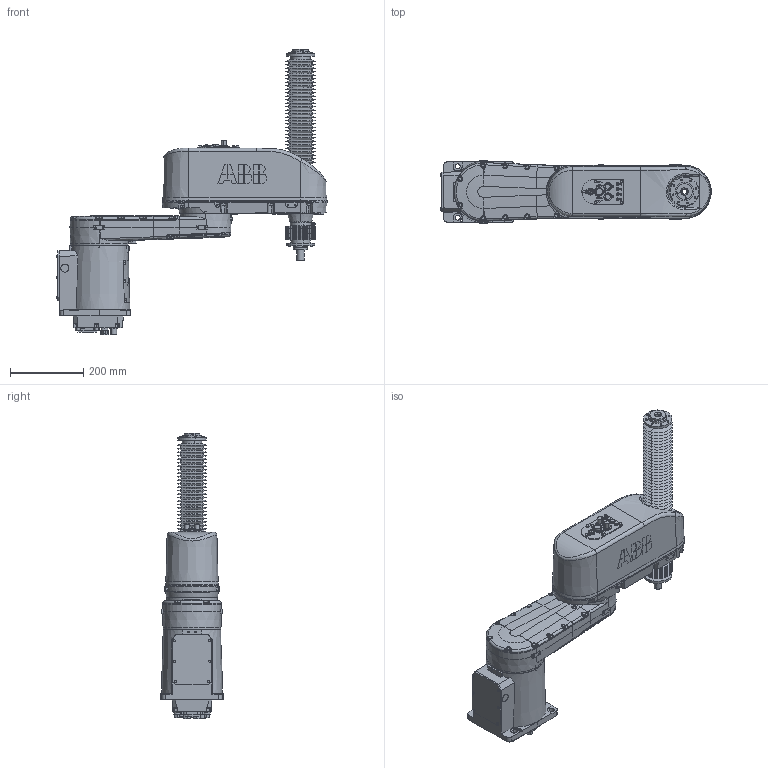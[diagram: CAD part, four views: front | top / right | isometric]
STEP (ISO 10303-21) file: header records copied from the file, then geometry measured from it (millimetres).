
FILE_DESCRIPTION (( 'STEP AP214' ), '1' );
FILE_NAME ('IRB920T_6kg-550-250-IP54-BTM_OmniCore_rev00_Assembly.step', '2021-10-28T02:21:41', ( '' ), ( '' ), 'SwSTEP 2.0', 'SolidWorks 2018', '' );
FILE_SCHEMA (( 'AUTOMOTIVE_DESIGN' ));
Length unit declared in the file: millimetre
Products named in the file (5): IRB920T_6kg-550-250-IP54CR-BTM_OmniCore_rev00_LINK1_CAD; IRB920T_6kg-550-250-IP54CR-BTM_OmniCore_rev00_LINK2_CAD; IRB920T_6kg-550-250-IP54CR-BTM_OmniCore_rev00_LINK3_CAD; IRB920T_6kg-550-250-IP54-BTM_OmniCore_rev00_Assembly; IRB920T_6kg-550-250-IP54-BTM_OmniCore_rev00_LINK0_CAD
Assembly tree (4 placements, depth 2):
  IRB920T_6kg-550-250-IP54-BTM_OmniCore_rev00_Assembly
    IRB920T_6kg-550-250-IP54-BTM_OmniCore_rev00_LINK0_CAD
    IRB920T_6kg-550-250-IP54CR-BTM_OmniCore_rev00_LINK1_CAD
    IRB920T_6kg-550-250-IP54CR-BTM_OmniCore_rev00_LINK2_CAD
    IRB920T_6kg-550-250-IP54CR-BTM_OmniCore_rev00_LINK3_CAD
Bounding box: 739 x 170 x 781.53 mm (x, y, z)
Volume: 20349130.4 mm3; surface area: 1184713.8 mm2
Topology: 4 solids, 4 shells, 2620 faces, 6551 edges, 4182 vertices
Faces by surface type: plane 1272, cone 474, cylinder 466, bspline 392, torus 14, sphere 2
Entity records: 107816 total; most frequent: CARTESIAN_POINT 38509, ORIENTED_EDGE 12956, DIRECTION 10840, EDGE_CURVE 6478, VERTEX_POINT 4182, LINE 3756, VECTOR 3756, AXIS2_PLACEMENT_3D 3542
